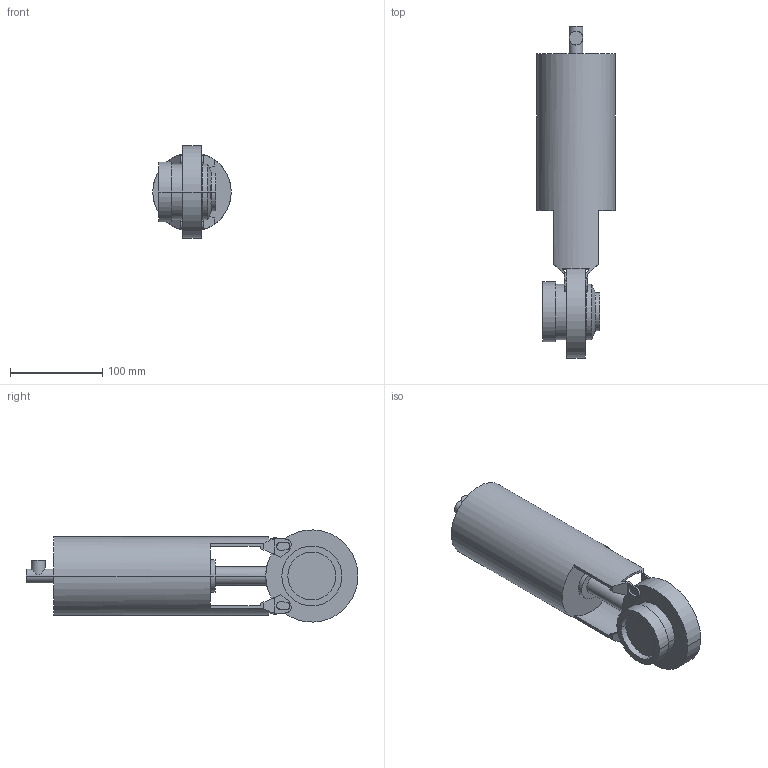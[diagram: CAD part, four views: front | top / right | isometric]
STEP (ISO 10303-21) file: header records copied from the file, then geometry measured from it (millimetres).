
FILE_DESCRIPTION(('Creo Elements/Direct Modeling STEP Export'),'2;1');
FILE_NAME('SV1-40-FZ-1S-2G.stp','2013-03-19T13:24:03',(''),(''),'Creo Elements/Direct Modeling STEP processor for AP214 (Solid Model)','Creo Elements/Direct Modeling 17.0D 15-Jul-2011 (C) Parametric Technology GmbH','');
FILE_SCHEMA(('AUTOMOTIVE_DESIGN { 1 0 10303 214 1 1 1 1 }'));
Length unit declared in the file: millimetre
Products named in the file (2): SV1-40-FZ-1S2G
Assembly tree (1 placements, depth 2):
  SV1-40-FZ-1S2G
    SV1-40-FZ-1S2G
Bounding box: 85 x 359.93 x 99.92 mm (x, y, z)
Volume: 1265235.1 mm3; surface area: 110518.4 mm2
Topology: 1 solids, 1 shells, 121 faces, 337 edges, 214 vertices
Faces by surface type: plane 76, cylinder 39, torus 4, cone 2
Entity records: 4184 total; most frequent: CARTESIAN_POINT 1160, ORIENTED_EDGE 674, DIRECTION 589, EDGE_CURVE 337, VERTEX_POINT 214, AXIS2_PLACEMENT_3D 200, VECTOR 189, LINE 189
